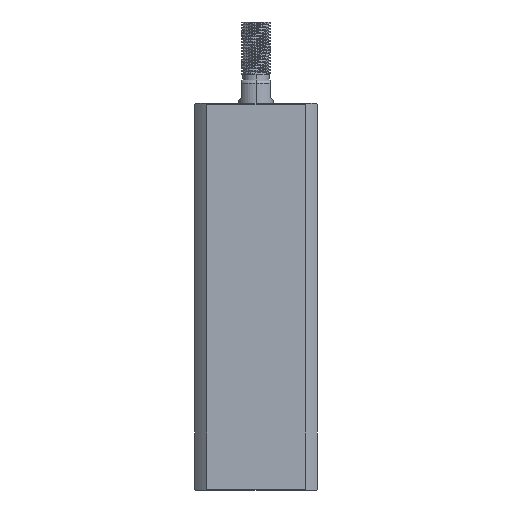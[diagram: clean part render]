
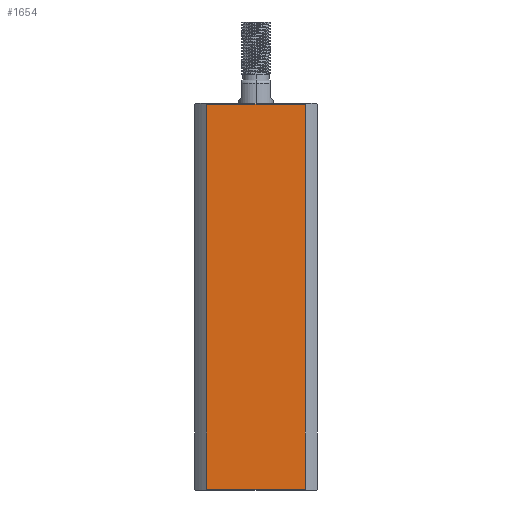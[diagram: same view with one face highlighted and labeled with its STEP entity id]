
A CAD part, left-side view. The second image highlights one B-rep face of the part: STEP entity #1654.
In plain terms, the highlighted planar face has unit normal (-1, 0, 0).
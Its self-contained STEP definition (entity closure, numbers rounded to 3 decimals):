
#107 = CARTESIAN_POINT ( 'NONE',  ( -21., 21., 133. ) ) ;
#734 = DIRECTION ( 'NONE',  ( 0., 0., 1. ) ) ;
#1166 = LINE ( 'NONE', #2958, #9329 ) ;
#1206 = CARTESIAN_POINT ( 'NONE',  ( -21., 16.971, 0.3 ) ) ;
#1291 = DIRECTION ( 'NONE',  ( 1., 0., 0. ) ) ;
#1654 = ADVANCED_FACE ( 'NONE', ( #13363 ), #7087, .F. ) ;
#1760 = VECTOR ( 'NONE', #734, 1000. ) ;
#1895 = ORIENTED_EDGE ( 'NONE', *, *, #4424, .T. ) ;
#2498 = VECTOR ( 'NONE', #4719, 1000. ) ;
#2596 = ORIENTED_EDGE ( 'NONE', *, *, #10568, .F. ) ;
#2751 = CARTESIAN_POINT ( 'NONE',  ( -21., -16.971, 132.7 ) ) ;
#2958 = CARTESIAN_POINT ( 'NONE',  ( -21., 21., 0.3 ) ) ;
#3219 = LINE ( 'NONE', #14651, #1760 ) ;
#4018 = AXIS2_PLACEMENT_3D ( 'NONE', #107, #1291, #9421 ) ;
#4256 = ORIENTED_EDGE ( 'NONE', *, *, #8109, .F. ) ;
#4401 = CARTESIAN_POINT ( 'NONE',  ( -21., -16.971, 0.3 ) ) ;
#4424 = EDGE_CURVE ( 'NONE', #6855, #9957, #1166, .T. ) ;
#4485 = CARTESIAN_POINT ( 'NONE',  ( -21., -16.971, -167. ) ) ;
#4719 = DIRECTION ( 'NONE',  ( 0., 1., 0. ) ) ;
#5551 = CARTESIAN_POINT ( 'NONE',  ( -21., 16.971, 132.7 ) ) ;
#6489 = VERTEX_POINT ( 'NONE', #2751 ) ;
#6708 = VERTEX_POINT ( 'NONE', #5551 ) ;
#6855 = VERTEX_POINT ( 'NONE', #1206 ) ;
#6896 = EDGE_CURVE ( 'NONE', #6489, #6708, #11754, .T. ) ;
#7052 = CARTESIAN_POINT ( 'NONE',  ( -21., 21., 132.7 ) ) ;
#7087 = PLANE ( 'NONE',  #4018 ) ;
#8109 = EDGE_CURVE ( 'NONE', #6855, #6708, #3219, .T. ) ;
#9329 = VECTOR ( 'NONE', #10923, 1000. ) ;
#9421 = DIRECTION ( 'NONE',  ( 0., 1., 0. ) ) ;
#9829 = VECTOR ( 'NONE', #11432, 1000. ) ;
#9957 = VERTEX_POINT ( 'NONE', #4401 ) ;
#10568 = EDGE_CURVE ( 'NONE', #6489, #9957, #12880, .T. ) ;
#10923 = DIRECTION ( 'NONE',  ( 0., -1., 0. ) ) ;
#11432 = DIRECTION ( 'NONE',  ( 0., 0., -1. ) ) ;
#11754 = LINE ( 'NONE', #7052, #2498 ) ;
#12744 = EDGE_LOOP ( 'NONE', ( #4256, #1895, #2596, #14361 ) ) ;
#12880 = LINE ( 'NONE', #4485, #9829 ) ;
#13363 = FACE_OUTER_BOUND ( 'NONE', #12744, .T. ) ;
#14361 = ORIENTED_EDGE ( 'NONE', *, *, #6896, .T. ) ;
#14651 = CARTESIAN_POINT ( 'NONE',  ( -21., 16.971, -167. ) ) ;
